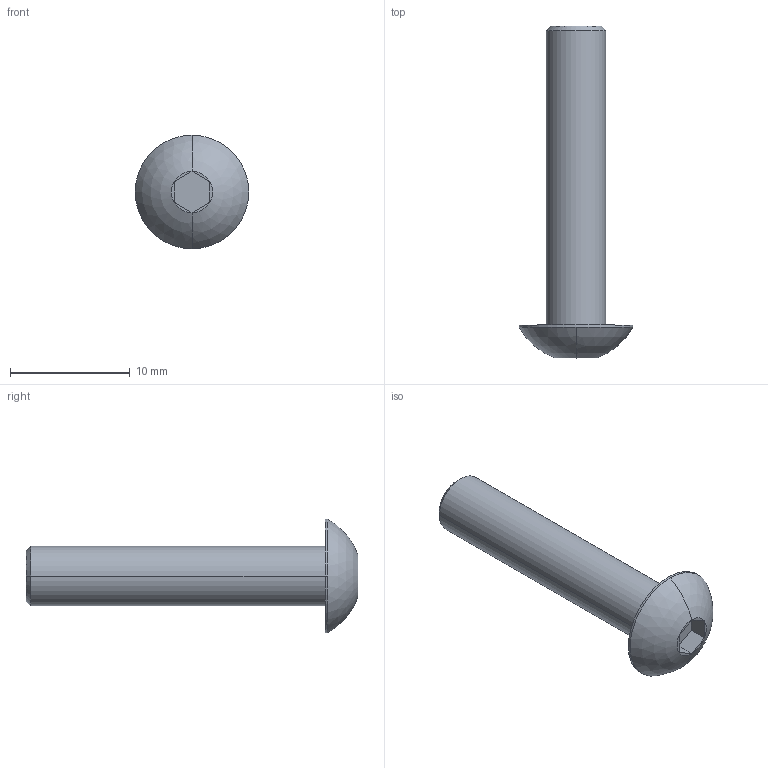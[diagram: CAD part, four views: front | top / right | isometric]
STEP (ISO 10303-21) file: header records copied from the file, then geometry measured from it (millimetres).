
FILE_DESCRIPTION((''),'2;1');
FILE_NAME('VTBEI0525','2002-12-27T',('Lipro doo'),('Lipro d.o.o.'),'PRO/ENGINEER BY PARAMETRIC TECHNOLOGY CORPORATION, 2001150','PRO/ENGINEER BY PARAMETRIC TECHNOLOGY CORPORATION, 2001150','');
FILE_SCHEMA(('CONFIG_CONTROL_DESIGN'));
Length unit declared in the file: millimetre
Products named in the file (1): VTBEI0525
Bounding box: 9.5 x 27.75 x 9.5 mm (x, y, z)
Volume: 602.8 mm3; surface area: 907.6 mm2
Topology: 1 solids, 2 shells, 25 faces, 50 edges, 28 vertices
Faces by surface type: plane 15, cylinder 6, cone 2, sphere 2
Entity records: 684 total; most frequent: DIRECTION 126, CARTESIAN_POINT 104, ORIENTED_EDGE 96, AXIS2_PLACEMENT_3D 50, EDGE_CURVE 50, VERTEX_POINT 28, VECTOR 26, LINE 26
